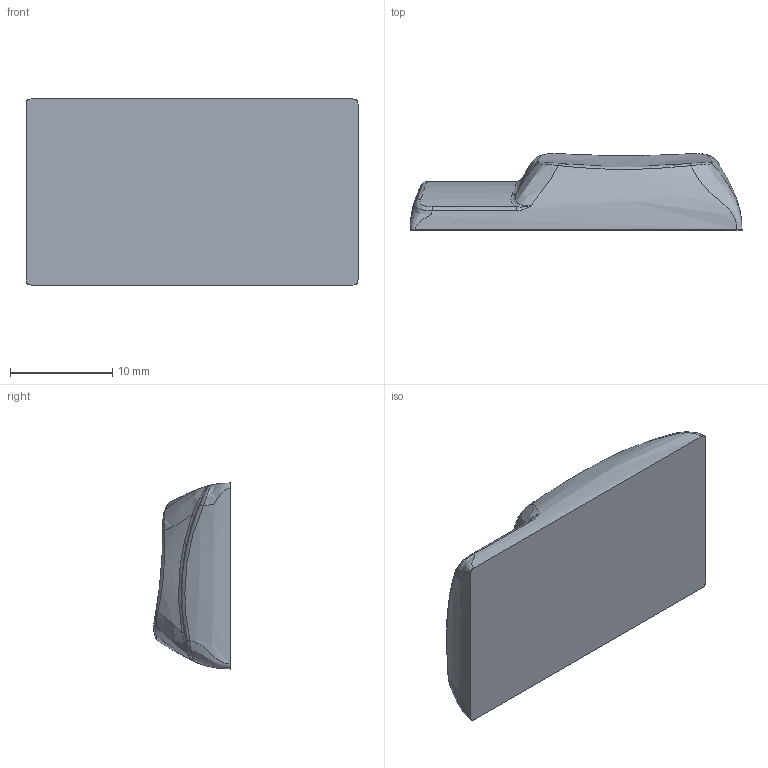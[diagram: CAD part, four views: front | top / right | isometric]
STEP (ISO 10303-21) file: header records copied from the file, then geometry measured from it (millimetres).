
FILE_DESCRIPTION (( 'STEP AP203' ), '1' );
FILE_NAME ('R3_1,75Ugest_base_v3.2_GMK.STEP', '2023-03-07T08:58:24', ( '' ), ( '' ), 'SwSTEP 2.0', 'SolidWorks 2022', '' );
FILE_SCHEMA (( 'CONFIG_CONTROL_DESIGN' ));
Length unit declared in the file: millimetre
Products named in the file (1): R3_1,75Ugest_base_v3.2_GMK
Bounding box: 32.48 x 7.49 x 18.2 mm (x, y, z)
Volume: 2998.9 mm3; surface area: 1577.8 mm2
Topology: 1 solids, 1 shells, 34 faces, 80 edges, 46 vertices
Faces by surface type: bspline 32, cylinder 1, plane 1
Entity records: 3598 total; most frequent: CARTESIAN_POINT 3038, ORIENTED_EDGE 156, EDGE_CURVE 78, B_SPLINE_CURVE_WITH_KNOTS 64, VERTEX_POINT 46, ADVANCED_FACE 34, EDGE_LOOP 34, FACE_OUTER_BOUND 34
